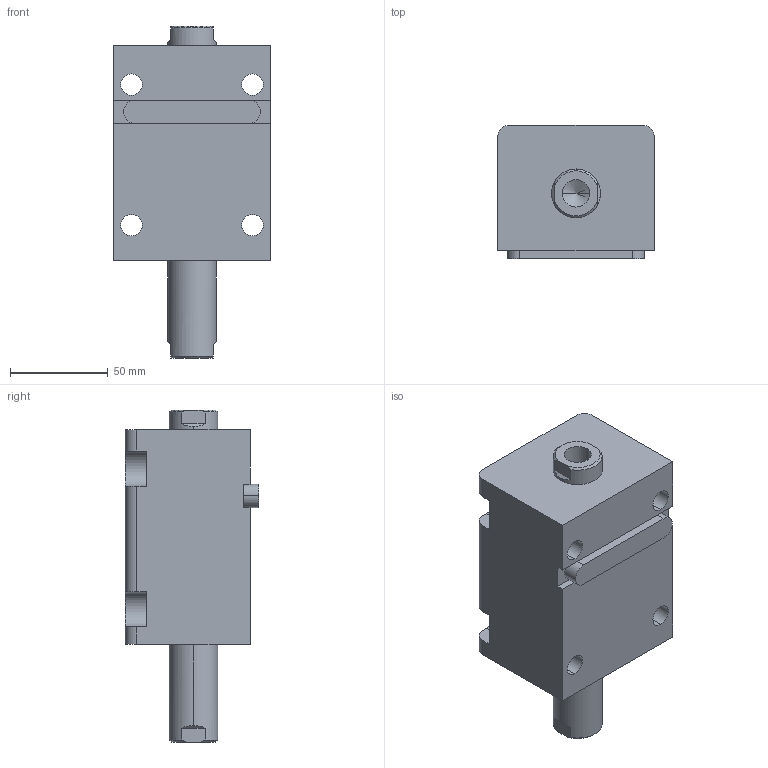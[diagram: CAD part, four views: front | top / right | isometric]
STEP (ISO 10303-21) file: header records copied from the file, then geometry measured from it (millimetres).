
FILE_DESCRIPTION (( 'STEP AP203' ), '1' );
FILE_NAME ('HTB-LW40-40N.STEP', '2019-10-09T07:55:20', ( '微软用户' ), ( '微软中国' ), 'SwSTEP 2.0', 'SolidWorks 2012', '' );
FILE_SCHEMA (( 'CONFIG_CONTROL_DESIGN' ));
Length unit declared in the file: millimetre
Products named in the file (4): HTB-LA40-瑩; HTB-LW40-40掛极; HTB-LW40-40N活塞杆; HTB-LW40-40N
Assembly tree (3 placements, depth 2):
  HTB-LW40-40N
    HTB-LW40-40掛极
    HTB-LW40-40N活塞杆
    HTB-LA40-瑩
Bounding box: 80 x 68.5 x 170 mm (x, y, z)
Volume: 521290.7 mm3; surface area: 83621.8 mm2
Topology: 3 solids, 3 shells, 105 faces, 261 edges, 168 vertices
Faces by surface type: plane 44, cylinder 41, cone 12, torus 8
Entity records: 3567 total; most frequent: CARTESIAN_POINT 588, DIRECTION 573, ORIENTED_EDGE 514, EDGE_CURVE 257, AXIS2_PLACEMENT_3D 221, VERTEX_POINT 168, LINE 131, VECTOR 131
